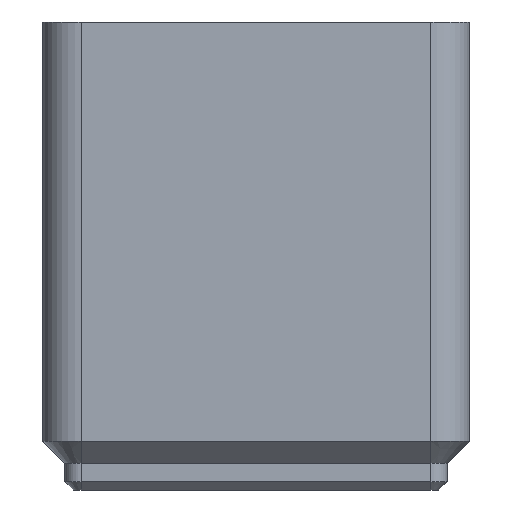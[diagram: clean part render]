
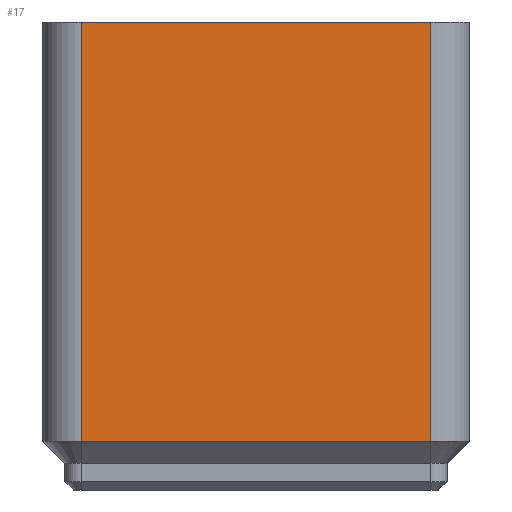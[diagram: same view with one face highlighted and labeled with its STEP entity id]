
A CAD part, left-side view. The second image highlights one B-rep face of the part: STEP entity #17.
In plain terms, the highlighted planar face has unit normal (-1, 0, 0).
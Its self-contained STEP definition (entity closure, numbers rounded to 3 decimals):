
#17 = ADVANCED_FACE('',(#18),#32,.T.);
#18 = FACE_BOUND('',#19,.T.);
#19 = EDGE_LOOP('',(#20,#55,#83,#111));
#20 = ORIENTED_EDGE('',*,*,#21,.T.);
#21 = EDGE_CURVE('',#22,#24,#26,.T.);
#22 = VERTEX_POINT('',#23);
#23 = CARTESIAN_POINT('',(-20.75,-17.,4.75));
#24 = VERTEX_POINT('',#25);
#25 = CARTESIAN_POINT('',(-20.75,-17.,45.55));
#26 = SURFACE_CURVE('',#27,(#31,#43),.PCURVE_S1.);
#27 = LINE('',#28,#29);
#28 = CARTESIAN_POINT('',(-20.75,-17.,4.75));
#29 = VECTOR('',#30,1.);
#30 = DIRECTION('',(0.,0.,1.));
#31 = PCURVE('',#32,#37);
#32 = PLANE('',#33);
#33 = AXIS2_PLACEMENT_3D('',#34,#35,#36);
#34 = CARTESIAN_POINT('',(-20.75,-17.,4.75));
#35 = DIRECTION('',(-1.,0.,0.));
#36 = DIRECTION('',(0.,1.,0.));
#37 = DEFINITIONAL_REPRESENTATION('',(#38),#42);
#38 = LINE('',#39,#40);
#39 = CARTESIAN_POINT('',(0.,0.));
#40 = VECTOR('',#41,1.);
#41 = DIRECTION('',(0.,-1.));
#42 = ( GEOMETRIC_REPRESENTATION_CONTEXT(2) 
PARAMETRIC_REPRESENTATION_CONTEXT() REPRESENTATION_CONTEXT('2D SPACE',''
  ) );
#43 = PCURVE('',#44,#49);
#44 = CYLINDRICAL_SURFACE('',#45,3.75);
#45 = AXIS2_PLACEMENT_3D('',#46,#47,#48);
#46 = CARTESIAN_POINT('',(-17.,-17.,4.75));
#47 = DIRECTION('',(0.,0.,-1.));
#48 = DIRECTION('',(-1.,0.,0.));
#49 = DEFINITIONAL_REPRESENTATION('',(#50),#54);
#50 = LINE('',#51,#52);
#51 = CARTESIAN_POINT('',(6.283,0.));
#52 = VECTOR('',#53,1.);
#53 = DIRECTION('',(0.,-1.));
#54 = ( GEOMETRIC_REPRESENTATION_CONTEXT(2) 
PARAMETRIC_REPRESENTATION_CONTEXT() REPRESENTATION_CONTEXT('2D SPACE',''
  ) );
#55 = ORIENTED_EDGE('',*,*,#56,.T.);
#56 = EDGE_CURVE('',#24,#57,#59,.T.);
#57 = VERTEX_POINT('',#58);
#58 = CARTESIAN_POINT('',(-20.75,17.,45.55));
#59 = SURFACE_CURVE('',#60,(#64,#71),.PCURVE_S1.);
#60 = LINE('',#61,#62);
#61 = CARTESIAN_POINT('',(-20.75,0.,45.55));
#62 = VECTOR('',#63,1.);
#63 = DIRECTION('',(0.,1.,0.));
#64 = PCURVE('',#32,#65);
#65 = DEFINITIONAL_REPRESENTATION('',(#66),#70);
#66 = LINE('',#67,#68);
#67 = CARTESIAN_POINT('',(17.,-40.8));
#68 = VECTOR('',#69,1.);
#69 = DIRECTION('',(1.,0.));
#70 = ( GEOMETRIC_REPRESENTATION_CONTEXT(2) 
PARAMETRIC_REPRESENTATION_CONTEXT() REPRESENTATION_CONTEXT('2D SPACE',''
  ) );
#71 = PCURVE('',#72,#77);
#72 = PLANE('',#73);
#73 = AXIS2_PLACEMENT_3D('',#74,#75,#76);
#74 = CARTESIAN_POINT('',(0.,0.,45.55)
  );
#75 = DIRECTION('',(0.,0.,1.));
#76 = DIRECTION('',(1.,0.,0.));
#77 = DEFINITIONAL_REPRESENTATION('',(#78),#82);
#78 = LINE('',#79,#80);
#79 = CARTESIAN_POINT('',(-20.75,0.));
#80 = VECTOR('',#81,1.);
#81 = DIRECTION('',(0.,1.));
#82 = ( GEOMETRIC_REPRESENTATION_CONTEXT(2) 
PARAMETRIC_REPRESENTATION_CONTEXT() REPRESENTATION_CONTEXT('2D SPACE',''
  ) );
#83 = ORIENTED_EDGE('',*,*,#84,.F.);
#84 = EDGE_CURVE('',#85,#57,#87,.T.);
#85 = VERTEX_POINT('',#86);
#86 = CARTESIAN_POINT('',(-20.75,17.,4.75));
#87 = SURFACE_CURVE('',#88,(#92,#99),.PCURVE_S1.);
#88 = LINE('',#89,#90);
#89 = CARTESIAN_POINT('',(-20.75,17.,4.75));
#90 = VECTOR('',#91,1.);
#91 = DIRECTION('',(0.,0.,1.));
#92 = PCURVE('',#32,#93);
#93 = DEFINITIONAL_REPRESENTATION('',(#94),#98);
#94 = LINE('',#95,#96);
#95 = CARTESIAN_POINT('',(34.,0.));
#96 = VECTOR('',#97,1.);
#97 = DIRECTION('',(0.,-1.));
#98 = ( GEOMETRIC_REPRESENTATION_CONTEXT(2) 
PARAMETRIC_REPRESENTATION_CONTEXT() REPRESENTATION_CONTEXT('2D SPACE',''
  ) );
#99 = PCURVE('',#100,#105);
#100 = CYLINDRICAL_SURFACE('',#101,3.75);
#101 = AXIS2_PLACEMENT_3D('',#102,#103,#104);
#102 = CARTESIAN_POINT('',(-17.,17.,4.75));
#103 = DIRECTION('',(0.,0.,-1.));
#104 = DIRECTION('',(-1.,0.,0.));
#105 = DEFINITIONAL_REPRESENTATION('',(#106),#110);
#106 = LINE('',#107,#108);
#107 = CARTESIAN_POINT('',(0.,0.));
#108 = VECTOR('',#109,1.);
#109 = DIRECTION('',(0.,-1.));
#110 = ( GEOMETRIC_REPRESENTATION_CONTEXT(2) 
PARAMETRIC_REPRESENTATION_CONTEXT() REPRESENTATION_CONTEXT('2D SPACE',''
  ) );
#111 = ORIENTED_EDGE('',*,*,#112,.F.);
#112 = EDGE_CURVE('',#22,#85,#113,.T.);
#113 = SURFACE_CURVE('',#114,(#118,#125),.PCURVE_S1.);
#114 = LINE('',#115,#116);
#115 = CARTESIAN_POINT('',(-20.75,0.,4.75));
#116 = VECTOR('',#117,1.);
#117 = DIRECTION('',(0.,1.,0.));
#118 = PCURVE('',#32,#119);
#119 = DEFINITIONAL_REPRESENTATION('',(#120),#124);
#120 = LINE('',#121,#122);
#121 = CARTESIAN_POINT('',(17.,0.));
#122 = VECTOR('',#123,1.);
#123 = DIRECTION('',(1.,0.));
#124 = ( GEOMETRIC_REPRESENTATION_CONTEXT(2) 
PARAMETRIC_REPRESENTATION_CONTEXT() REPRESENTATION_CONTEXT('2D SPACE',''
  ) );
#125 = PCURVE('',#126,#131);
#126 = PLANE('',#127);
#127 = AXIS2_PLACEMENT_3D('',#128,#129,#130);
#128 = CARTESIAN_POINT('',(-20.75,0.,4.75));
#129 = DIRECTION('',(-0.707,0.,-0.707));
#130 = DIRECTION('',(0.,-1.,-0.));
#131 = DEFINITIONAL_REPRESENTATION('',(#132),#136);
#132 = LINE('',#133,#134);
#133 = CARTESIAN_POINT('',(0.,0.));
#134 = VECTOR('',#135,1.);
#135 = DIRECTION('',(-1.,0.));
#136 = ( GEOMETRIC_REPRESENTATION_CONTEXT(2) 
PARAMETRIC_REPRESENTATION_CONTEXT() REPRESENTATION_CONTEXT('2D SPACE',''
  ) );
